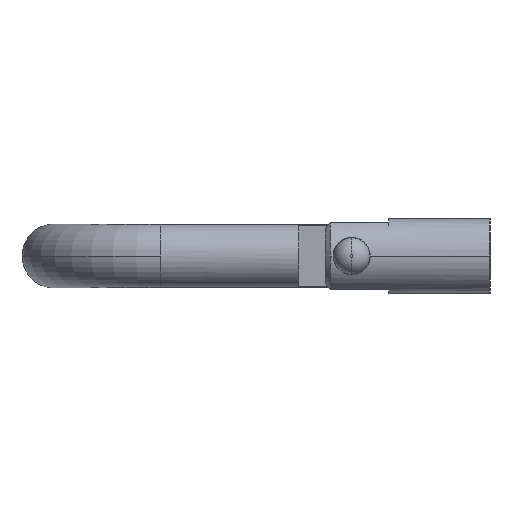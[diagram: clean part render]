
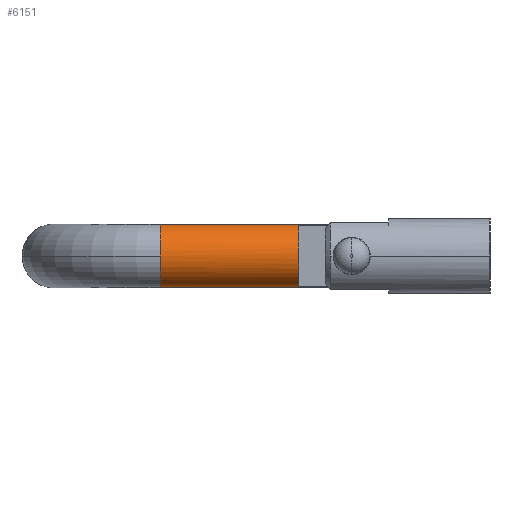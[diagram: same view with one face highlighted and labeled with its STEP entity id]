
A CAD part, left-side view. The second image highlights one B-rep face of the part: STEP entity #6151.
In plain terms, the highlighted cylindrical face has radius 3 mm (diameter 6 mm), a partial arc.
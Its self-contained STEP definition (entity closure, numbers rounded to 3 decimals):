
#12 = CARTESIAN_POINT ( 'NONE',  ( -62., 6.682, 2.828 ) ) ;
#21 = DIRECTION ( 'NONE',  ( 0., -1., 0. ) ) ;
#174 = EDGE_CURVE ( 'NONE', #5043, #2034, #7534, .T. ) ;
#227 = CARTESIAN_POINT ( 'NONE',  ( -62., 11.682, 2.828 ) ) ;
#259 = AXIS2_PLACEMENT_3D ( 'NONE', #6798, #21, #1894 ) ;
#270 = VERTEX_POINT ( 'NONE', #12 ) ;
#278 = CARTESIAN_POINT ( 'NONE',  ( -61., 24.682, -3. ) ) ;
#313 = DIRECTION ( 'NONE',  ( 0., 1., 0. ) ) ;
#318 = ORIENTED_EDGE ( 'NONE', *, *, #3515, .T. ) ;
#328 = EDGE_LOOP ( 'NONE', ( #1897, #7683, #4134, #1541, #318, #7472, #7202, #6880, #4858 ) ) ;
#393 = LINE ( 'NONE', #5288, #1153 ) ;
#433 = LINE ( 'NONE', #5159, #7134 ) ;
#453 = LINE ( 'NONE', #2904, #2899 ) ;
#468 = EDGE_CURVE ( 'NONE', #270, #2565, #5132, .T. ) ;
#483 = FACE_OUTER_BOUND ( 'NONE', #328, .T. ) ;
#495 = DIRECTION ( 'NONE',  ( 0., -1., 0. ) ) ;
#602 = CARTESIAN_POINT ( 'NONE',  ( -61., 24.682, 3. ) ) ;
#705 = EDGE_CURVE ( 'NONE', #3157, #3342, #2066, .T. ) ;
#829 = CARTESIAN_POINT ( 'NONE',  ( -61., 6.682, 3. ) ) ;
#1085 = CYLINDRICAL_SURFACE ( 'NONE', #7656, 3. ) ;
#1102 = VECTOR ( 'NONE', #3212, 1000. ) ;
#1153 = VECTOR ( 'NONE', #3074, 1000. ) ;
#1541 = ORIENTED_EDGE ( 'NONE', *, *, #705, .F. ) ;
#1720 = DIRECTION ( 'NONE',  ( 0., -1., 0. ) ) ;
#1894 = DIRECTION ( 'NONE',  ( 0., 0., 1. ) ) ;
#1897 = ORIENTED_EDGE ( 'NONE', *, *, #4574, .F. ) ;
#1930 = VERTEX_POINT ( 'NONE', #2876 ) ;
#2031 = EDGE_CURVE ( 'NONE', #1930, #3342, #393, .T. ) ;
#2034 = VERTEX_POINT ( 'NONE', #5368 ) ;
#2066 = CIRCLE ( 'NONE', #5917, 3. ) ;
#2226 = EDGE_CURVE ( 'NONE', #2034, #4906, #6922, .T. ) ;
#2565 = VERTEX_POINT ( 'NONE', #829 ) ;
#2753 = DIRECTION ( 'NONE',  ( 0., 0., 1. ) ) ;
#2876 = CARTESIAN_POINT ( 'NONE',  ( -62., 6.682, -2.828 ) ) ;
#2899 = VECTOR ( 'NONE', #495, 1000. ) ;
#2904 = CARTESIAN_POINT ( 'NONE',  ( -62., 3.682, 2.828 ) ) ;
#2969 = DIRECTION ( 'NONE',  ( 0., 1., 0. ) ) ;
#3047 = CARTESIAN_POINT ( 'NONE',  ( -61., 24.682, 0. ) ) ;
#3074 = DIRECTION ( 'NONE',  ( 0., 1., 0. ) ) ;
#3157 = VERTEX_POINT ( 'NONE', #227 ) ;
#3212 = DIRECTION ( 'NONE',  ( 0., 1., 0. ) ) ;
#3281 = DIRECTION ( 'NONE',  ( 0., 1., 0. ) ) ;
#3342 = VERTEX_POINT ( 'NONE', #6484 ) ;
#3515 = EDGE_CURVE ( 'NONE', #3157, #270, #453, .T. ) ;
#4110 = LINE ( 'NONE', #4260, #1102 ) ;
#4134 = ORIENTED_EDGE ( 'NONE', *, *, #2031, .T. ) ;
#4260 = CARTESIAN_POINT ( 'NONE',  ( -61., 3.682, -3. ) ) ;
#4574 = EDGE_CURVE ( 'NONE', #7678, #4906, #4110, .T. ) ;
#4598 = DIRECTION ( 'NONE',  ( 1., 0., 0. ) ) ;
#4740 = EDGE_CURVE ( 'NONE', #2565, #5043, #433, .T. ) ;
#4784 = EDGE_CURVE ( 'NONE', #7678, #1930, #7638, .T. ) ;
#4858 = ORIENTED_EDGE ( 'NONE', *, *, #2226, .T. ) ;
#4906 = VERTEX_POINT ( 'NONE', #278 ) ;
#5043 = VERTEX_POINT ( 'NONE', #602 ) ;
#5132 = CIRCLE ( 'NONE', #6686, 3. ) ;
#5159 = CARTESIAN_POINT ( 'NONE',  ( -61., 3.682, 3. ) ) ;
#5202 = DIRECTION ( 'NONE',  ( 0., -1., 0. ) ) ;
#5288 = CARTESIAN_POINT ( 'NONE',  ( -62., 3.682, -2.828 ) ) ;
#5368 = CARTESIAN_POINT ( 'NONE',  ( -64., 24.682, 0. ) ) ;
#5454 = AXIS2_PLACEMENT_3D ( 'NONE', #6416, #313, #2753 ) ;
#5730 = DIRECTION ( 'NONE',  ( 0., 0., 1. ) ) ;
#5917 = AXIS2_PLACEMENT_3D ( 'NONE', #6934, #5202, #4598 ) ;
#6151 = ADVANCED_FACE ( 'NONE', ( #483 ), #1085, .T. ) ;
#6416 = CARTESIAN_POINT ( 'NONE',  ( -61., 6.682, 0. ) ) ;
#6484 = CARTESIAN_POINT ( 'NONE',  ( -62., 11.682, -2.828 ) ) ;
#6531 = DIRECTION ( 'NONE',  ( 0., 1., 0. ) ) ;
#6624 = DIRECTION ( 'NONE',  ( 0., 0., 1. ) ) ;
#6686 = AXIS2_PLACEMENT_3D ( 'NONE', #7429, #3281, #5730 ) ;
#6797 = AXIS2_PLACEMENT_3D ( 'NONE', #3047, #1720, #7388 ) ;
#6798 = CARTESIAN_POINT ( 'NONE',  ( -61., 24.682, 0. ) ) ;
#6880 = ORIENTED_EDGE ( 'NONE', *, *, #174, .T. ) ;
#6922 = CIRCLE ( 'NONE', #259, 3. ) ;
#6934 = CARTESIAN_POINT ( 'NONE',  ( -61., 11.682, 0. ) ) ;
#7134 = VECTOR ( 'NONE', #6531, 1000. ) ;
#7200 = CARTESIAN_POINT ( 'NONE',  ( -61., 6.682, -3. ) ) ;
#7202 = ORIENTED_EDGE ( 'NONE', *, *, #4740, .T. ) ;
#7268 = CARTESIAN_POINT ( 'NONE',  ( -61., 3.682, 0. ) ) ;
#7388 = DIRECTION ( 'NONE',  ( 0., 0., 1. ) ) ;
#7429 = CARTESIAN_POINT ( 'NONE',  ( -61., 6.682, 0. ) ) ;
#7472 = ORIENTED_EDGE ( 'NONE', *, *, #468, .T. ) ;
#7534 = CIRCLE ( 'NONE', #6797, 3. ) ;
#7638 = CIRCLE ( 'NONE', #5454, 3. ) ;
#7656 = AXIS2_PLACEMENT_3D ( 'NONE', #7268, #2969, #6624 ) ;
#7678 = VERTEX_POINT ( 'NONE', #7200 ) ;
#7683 = ORIENTED_EDGE ( 'NONE', *, *, #4784, .T. ) ;
